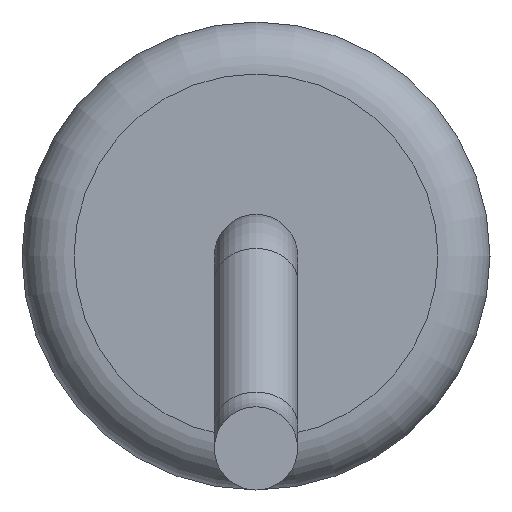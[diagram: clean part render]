
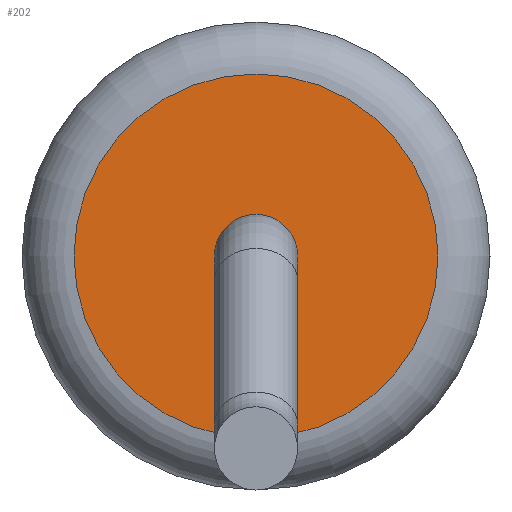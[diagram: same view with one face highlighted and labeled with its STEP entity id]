
A CAD part, left-side view. The second image highlights one B-rep face of the part: STEP entity #202.
In plain terms, the highlighted planar face has unit normal (-1, 0, 0).
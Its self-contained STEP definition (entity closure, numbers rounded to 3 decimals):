
#202=ADVANCED_FACE('',(#407,#409),#411,.T.);
#407=FACE_BOUND('',#408,.T.);
#408=EDGE_LOOP('',(#499));
#409=FACE_BOUND('',#410,.T.);
#410=EDGE_LOOP('',(#500));
#411=PLANE('',#412);
#412=AXIS2_PLACEMENT_3D('',#413,#414,#415);
#413=CARTESIAN_POINT('',(-5.75,0.,0.));
#414=DIRECTION('',(-1.,0.,0.));
#415=DIRECTION('',(0.,0.,1.));
#499=ORIENTED_EDGE('',*,*,#527,.T.);
#500=ORIENTED_EDGE('',*,*,#528,.F.);
#527=EDGE_CURVE('',#564,#564,#565,.T.);
#528=EDGE_CURVE('',#566,#566,#567,.T.);
#564=VERTEX_POINT('',#653);
#565=CIRCLE('',#654,1.75);
#566=VERTEX_POINT('',#658);
#567=CIRCLE('',#659,0.4);
#653=CARTESIAN_POINT('',(-5.75,0.,1.75));
#654=AXIS2_PLACEMENT_3D('',#655,#656,#657);
#655=CARTESIAN_POINT('',(-5.75,0.,0.));
#656=DIRECTION('',(-1.,0.,0.));
#657=DIRECTION('',(0.,0.,1.));
#658=CARTESIAN_POINT('',(-5.75,-0.4,0.));
#659=AXIS2_PLACEMENT_3D('',#660,#661,#662);
#660=CARTESIAN_POINT('',(-5.75,0.,0.));
#661=DIRECTION('',(-1.,0.,0.));
#662=DIRECTION('',(-0.,-1.,0.));
